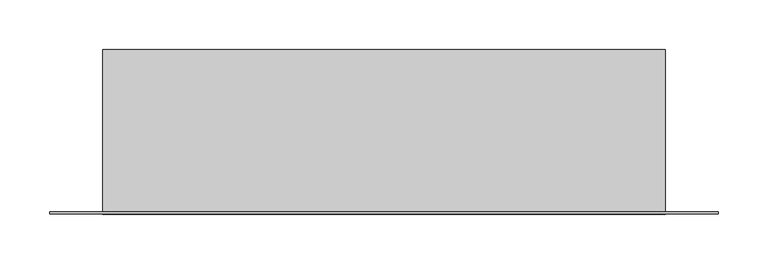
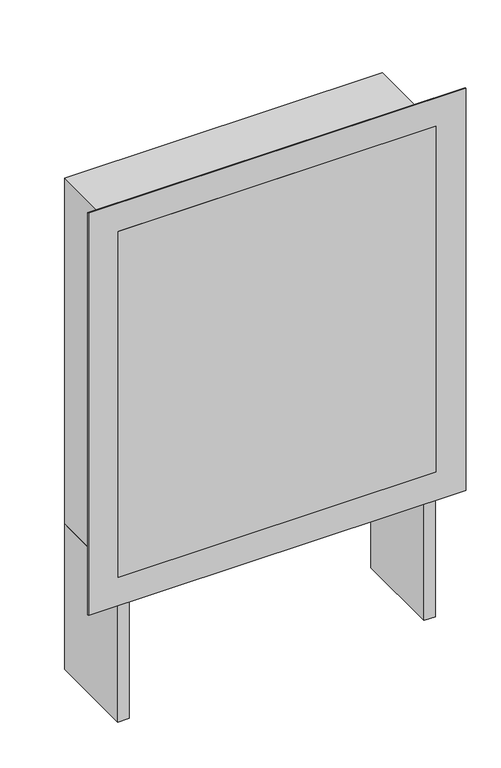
"""IFC4 building model written with IfcOpenShell, lengths in millimetres: valve geometry, PL CZ,HU Cabinet under plaster : FT-VK2 4-6 manifold loops."""

from ifc_helpers import new_model, si_unit, frame, origin, origin_with_axes, place, context, project, spatial, polyline, outline, extrude, source, transform, mapped, element, save


def valve_0ca0da9e(model_context):
    return source(origin(), model_context, "Body", "SweptSolid", [
        extrude(outline(polyline([(-262.1040906, 2.0), (-282.1040906, 2.0), (-282.1040906, 165.0), (-262.1040906, 165.0), (-262.1040906, 2.0)])), origin_with_axes(), (0.0, 0.0, 1.0), 272.8959094),
        extrude(outline(polyline([(282.1040906, 2.0), (262.1040906, 2.0), (262.1040906, 165.0), (282.1040906, 165.0), (282.1040906, 2.0)])), origin_with_axes(), (0.0, 0.0, 1.0), 272.8959094),
        extrude(outline(polyline([(282.1040906, 0.0), (-282.1040906, 0.0), (-282.1040906, 165.0), (282.1040906, 165.0), (282.1040906, 0.0)])), frame((0.0, 0.0, 272.8959094), z_axis=(0.0, 0.0, 1.0), x_axis=(1.0, 0.0, 0.0)), (0.0, 0.0, 1.0), 649.2081812),
        extrude(outline(polyline([(975.0, 335.0), (975.0, -335.0), (220.0, -335.0), (220.0, 335.0), (975.0, 335.0)]), holes=[polyline([(272.8959094, -282.1040906), (922.1040906, -282.1040906), (922.1040906, 282.1040906), (272.8959094, 282.1040906), (272.8959094, -282.1040906)])]), frame((0.0, 0.0, 0.0), z_axis=(0.0, 1.0, 0.0), x_axis=(0.0, 0.0, 1.0)), (0.0, 0.0, 1.0), 2.0),
    ])


if __name__ == "__main__":
    model = new_model("IFC4")
    model_context = context("Model", 3, world=origin())
    ifc_project = project(units=[si_unit("LENGTHUNIT", "METRE", prefix="MILLI")], contexts=[model_context])
    site = spatial("IfcSite", under=ifc_project)
    building = spatial("IfcBuilding", under=site)
    placement = place(None, origin())
    valve_shape = valve_0ca0da9e(model_context)
    element("IfcValve", 1, ObjectType="PL CZ,HU Cabinet under plaster : FT-VK2 4-6 manifold loops", at=placement, inside=building, context=model_context, shape_type="MappedRepresentation", body=[
        mapped(valve_shape, transform((0.0, 0.0, 0.0), x_axis=(1.0, 0.0, 0.0), y_axis=(0.0, 1.0, 0.0), z_axis=(0.0, 0.0, 1.0))),
    ])
    save(model, "model.ifc")
